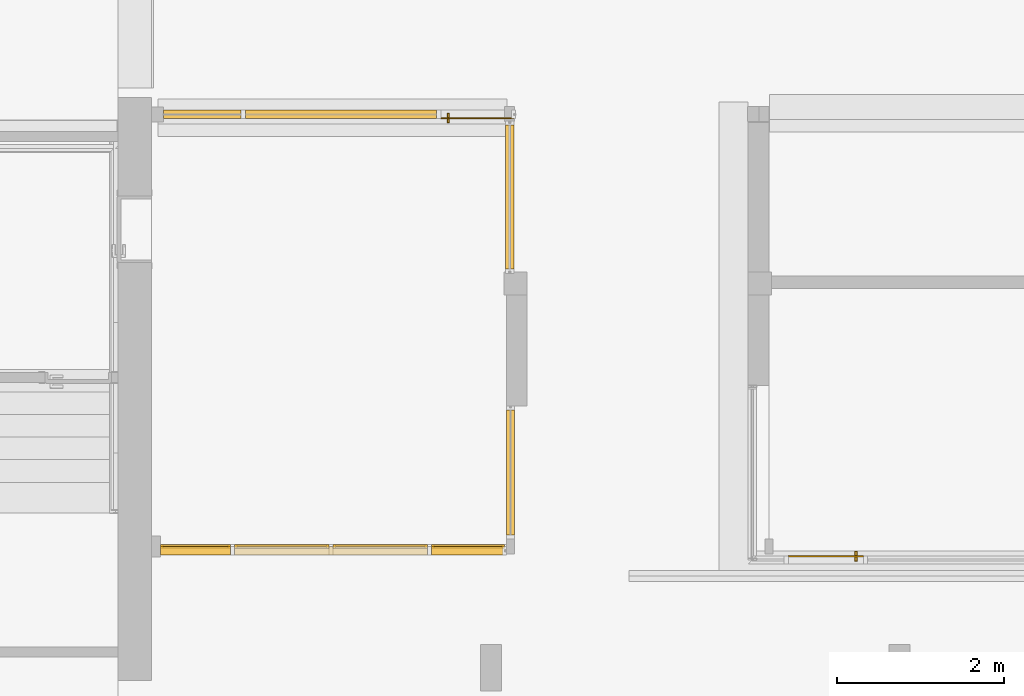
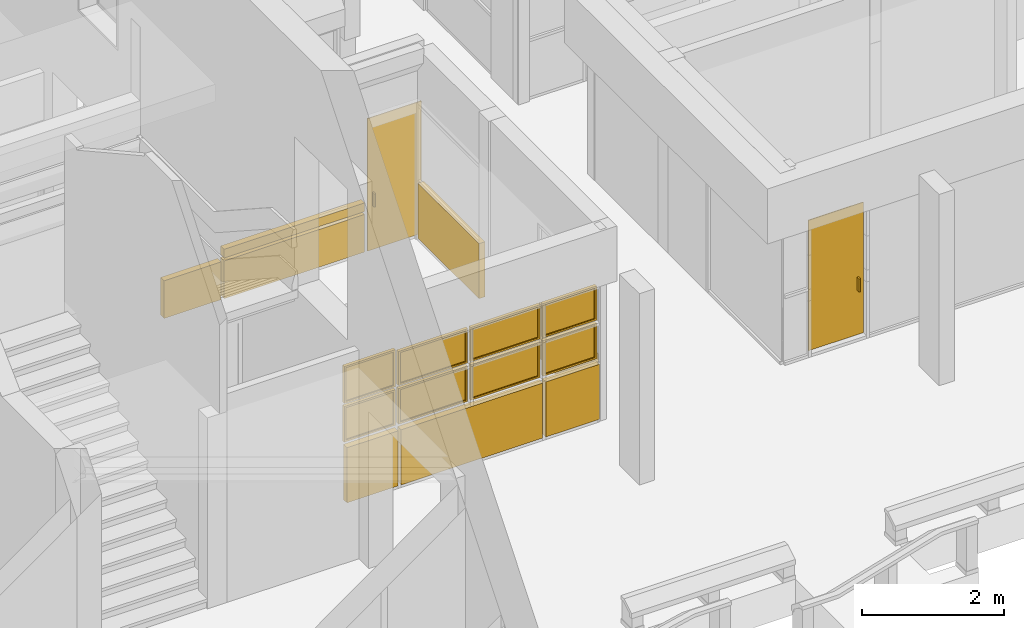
# One storey, part 103 of 117: 8 curtain walls, 8 windows, 2 doors, 5 elements without a shape of their own.
"""IFC4 building model written with IfcOpenShell, lengths in metres."""

from ifc_helpers import new_model, entity, si_unit, converted_unit, derived_unit, direction, frame, origin, place, context, subcontext, project, spatial, indexed_curve, outline, extrude, source, transform, mapped, material, constituent, constituent_set, type_object, type_shapes, element, aggregate, save


model = new_model("IFC4")

# Units and contexts
model_context = context("Model", 3, precision=1e-05, world=origin(), true_north=direction((6.123031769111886e-17, 1.0)))
body_context = subcontext(model_context, "Body", "Model", "MODEL_VIEW")
ifc_project = project(units=[si_unit("LENGTHUNIT", "METRE"), si_unit("AREAUNIT", "SQUARE_METRE"), si_unit("VOLUMEUNIT", "CUBIC_METRE"), converted_unit("PLANEANGLEUNIT", "DEGREE", entity("IfcRatioMeasure", 0.017453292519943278), si_unit("PLANEANGLEUNIT", "RADIAN"), dimensions=[0, 0, 0, 0, 0, 0, 0]), si_unit("MASSUNIT", "GRAM", prefix="KILO"), derived_unit("MASSDENSITYUNIT", [(si_unit("MASSUNIT", "GRAM", prefix="KILO"), 1), (si_unit("LENGTHUNIT", "METRE"), -3)]), derived_unit("MOMENTOFINERTIAUNIT", [(si_unit("LENGTHUNIT", "METRE"), 4)]), si_unit("TIMEUNIT", "SECOND"), si_unit("FREQUENCYUNIT", "HERTZ"), si_unit("THERMODYNAMICTEMPERATUREUNIT", "DEGREE_CELSIUS"), derived_unit("THERMALTRANSMITTANCEUNIT", [(si_unit("MASSUNIT", "GRAM", prefix="KILO"), 1), (si_unit("THERMODYNAMICTEMPERATUREUNIT", "KELVIN"), -1), (si_unit("TIMEUNIT", "SECOND"), -3)]), derived_unit("VOLUMETRICFLOWRATEUNIT", [(si_unit("LENGTHUNIT", "METRE"), 3), (si_unit("TIMEUNIT", "SECOND"), -1)]), derived_unit("MASSFLOWRATEUNIT", [(si_unit("MASSUNIT", "GRAM", prefix="KILO"), 1), (si_unit("TIMEUNIT", "SECOND"), -1)]), derived_unit("ROTATIONALFREQUENCYUNIT", [(si_unit("TIMEUNIT", "SECOND"), -1)]), si_unit("ELECTRICCURRENTUNIT", "AMPERE"), si_unit("ELECTRICVOLTAGEUNIT", "VOLT"), si_unit("POWERUNIT", "WATT"), si_unit("FORCEUNIT", "NEWTON", prefix="KILO"), si_unit("ILLUMINANCEUNIT", "LUX"), si_unit("LUMINOUSFLUXUNIT", "LUMEN"), si_unit("LUMINOUSINTENSITYUNIT", "CANDELA"), derived_unit("USERDEFINED", [(si_unit("MASSUNIT", "GRAM", prefix="KILO"), -1), (si_unit("LENGTHUNIT", "METRE"), -2), (si_unit("TIMEUNIT", "SECOND"), 3), (si_unit("LUMINOUSFLUXUNIT", "LUMEN"), 1)]), derived_unit("SOUNDPOWERUNIT", [(si_unit("MASSUNIT", "GRAM", prefix="KILO"), 1), (si_unit("LENGTHUNIT", "METRE"), 2), (si_unit("TIMEUNIT", "SECOND"), -3)]), derived_unit("SOUNDPRESSUREUNIT", [(si_unit("MASSUNIT", "GRAM", prefix="KILO"), 1), (si_unit("LENGTHUNIT", "METRE"), -1), (si_unit("TIMEUNIT", "SECOND"), -2)]), derived_unit("LINEARVELOCITYUNIT", [(si_unit("LENGTHUNIT", "METRE"), 1), (si_unit("TIMEUNIT", "SECOND"), -1)]), si_unit("PRESSUREUNIT", "PASCAL"), derived_unit("USERDEFINED", [(si_unit("LENGTHUNIT", "METRE"), -2), (si_unit("MASSUNIT", "GRAM", prefix="KILO"), 1), (si_unit("TIMEUNIT", "SECOND"), -2)]), derived_unit("LINEARFORCEUNIT", [(si_unit("MASSUNIT", "GRAM", prefix="KILO"), 1), (si_unit("LENGTHUNIT", "METRE"), 1), (si_unit("TIMEUNIT", "SECOND"), -2), (si_unit("LENGTHUNIT", "METRE"), -1)]), derived_unit("PLANARFORCEUNIT", [(si_unit("MASSUNIT", "GRAM", prefix="KILO"), 1), (si_unit("LENGTHUNIT", "METRE"), 1), (si_unit("TIMEUNIT", "SECOND"), -2), (si_unit("LENGTHUNIT", "METRE"), -2)])], contexts=[model_context])

# Site, building, storey
site_placement = place(None, origin())
site = spatial("IfcSite", under=ifc_project, at=site_placement, Name="Superficie", CompositionType="ELEMENT")
building_placement = place(site_placement, origin())
building = spatial("IfcBuilding", under=site, at=building_placement, CompositionType="ELEMENT")
storey_placement = place(building_placement, origin())
storey = spatial("IfcBuildingStorey", under=building, at=storey_placement, Name="Nivel 0", CompositionType="ELEMENT", Elevation=0.0)

# Curtain walls
curtain_wall_type_1 = type_object("IfcCurtainWallType", Name="Muro cortina:Muro cortina - simple", PredefinedType="NOTDEFINED")
curtain_wall_1_placement = place(storey_placement, origin())
curtain_wall_1 = element("IfcCurtainWall", 1, at=curtain_wall_1_placement, inside=storey, type_object=curtain_wall_type_1, Name="Muro cortina:Muro cortina - simple", ObjectType="Muro cortina:Muro cortina - simple", PredefinedType="NOTDEFINED")
ifc_material_1 = material(Name="<Unnamed>")
curtain_wall_type_2 = type_object("IfcCurtainWallType", Name="Muro básico:Por defecto - 10 cm", PredefinedType="NOTDEFINED")
curtain_wall_2_placement = place(storey_placement, frame((-18.41320098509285, -1.65417071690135, 0.04500000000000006), z_axis=(0.0, 0.0, 1.0), x_axis=(-1.0, 0.0, 0.0)))
curtain_wall_2 = element("IfcCurtainWall", 2, at=curtain_wall_2_placement, type_object=curtain_wall_type_2, material=ifc_material_1, Name="Muro básico:Por defecto - 10 cm", ObjectType="Muro básico:Por defecto - 10 cm", PredefinedType="NOTDEFINED", context=body_context, shape_type="SweptSolid", body=[
    extrude(outline(indexed_curve([(0.874999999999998, 0.04999999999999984), (-1.6114094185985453e-16, 0.05), (1.6114094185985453e-16, -0.05), (0.8749999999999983, -0.05000000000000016), (0.874999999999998, 0.04999999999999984)], self_intersect=False)), origin(), (0.0, 0.0, 1.0), 0.9500000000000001),
])
curtain_wall_3_placement = place(storey_placement, frame((-19.33820098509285, -1.6541707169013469, 0.04500000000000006), z_axis=(0.0, 0.0, 1.0), x_axis=(-1.0, 0.0, 0.0)))
curtain_wall_3 = element("IfcCurtainWall", 3, at=curtain_wall_3_placement, type_object=curtain_wall_type_2, material=ifc_material_1, Name="Muro básico:Por defecto - 10 cm", ObjectType="Muro básico:Por defecto - 10 cm", PredefinedType="NOTDEFINED", context=body_context, shape_type="SweptSolid", body=[
    extrude(outline(indexed_curve([(2.310000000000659, 0.04999999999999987), (-1.6114094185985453e-16, 0.05), (1.6114094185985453e-16, -0.05), (2.31000000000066, -0.05000000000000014), (2.310000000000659, 0.04999999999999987)], self_intersect=False)), origin(), (0.0, 0.0, 1.0), 0.9500000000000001),
])
curtain_wall_4_placement = place(storey_placement, frame((-21.698200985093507, -1.6541707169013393, 0.04500000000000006), z_axis=(0.0, 0.0, 1.0), x_axis=(-1.0, 0.0, 0.0)))
curtain_wall_4 = element("IfcCurtainWall", 4, at=curtain_wall_4_placement, type_object=curtain_wall_type_2, material=ifc_material_1, Name="Muro básico:Por defecto - 10 cm", ObjectType="Muro básico:Por defecto - 10 cm", PredefinedType="NOTDEFINED", context=body_context, shape_type="SweptSolid", body=[
    extrude(outline(indexed_curve([(0.8344348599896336, 0.04999999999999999), (-1.6114094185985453e-16, 0.05), (1.6114094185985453e-16, -0.05), (0.834434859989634, -0.050000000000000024), (0.8344348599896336, 0.04999999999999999)], self_intersect=False)), origin(), (0.0, 0.0, 1.0), 0.9500000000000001),
])

curtain_wall_5_placement = place(storey_placement, origin())
curtain_wall_5 = element("IfcCurtainWall", 5, at=curtain_wall_5_placement, inside=storey, type_object=curtain_wall_type_1, Name="Muro cortina:Muro cortina - simple", ObjectType="Muro cortina:Muro cortina - simple", PredefinedType="NOTDEFINED")
curtain_wall_6_placement = place(storey_placement, frame((-18.343200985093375, -1.4641707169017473, 0.04500000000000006), z_axis=(0.0, 0.0, 1.0), x_axis=(0.0, 1.0, 0.0)))
curtain_wall_6 = element("IfcCurtainWall", 6, at=curtain_wall_6_placement, type_object=curtain_wall_type_2, material=ifc_material_1, Name="Muro básico:Por defecto - 10 cm", ObjectType="Muro básico:Por defecto - 10 cm", PredefinedType="NOTDEFINED", context=body_context, shape_type="SweptSolid", body=[
    extrude(outline(indexed_curve([(1.4962827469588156, 0.04999999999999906), (-5.879933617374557e-17, 0.04999999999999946), (5.879933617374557e-17, -0.04999999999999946), (1.4962827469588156, -0.04999999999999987), (1.4962827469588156, 0.04999999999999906)], self_intersect=False)), origin(), (0.0, 0.0, 1.0), 0.9500000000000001),
])
aggregate(curtain_wall_5, [curtain_wall_6])

curtain_wall_7_placement = place(storey_placement, origin())
curtain_wall_7 = element("IfcCurtainWall", 7, at=curtain_wall_7_placement, inside=storey, type_object=curtain_wall_type_1, Name="Muro cortina:Muro cortina - simple", ObjectType="Muro cortina:Muro cortina - simple", PredefinedType="NOTDEFINED")
curtain_wall_8_placement = place(storey_placement, frame((-18.3532009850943, 3.440829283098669, 0.04500000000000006), z_axis=(0.0, 0.0, 1.0), x_axis=(0.0, -1.0, 0.0)))
curtain_wall_8 = element("IfcCurtainWall", 8, at=curtain_wall_8_placement, type_object=curtain_wall_type_2, material=ifc_material_1, Name="Muro básico:Por defecto - 10 cm", ObjectType="Muro básico:Por defecto - 10 cm", PredefinedType="NOTDEFINED", context=body_context, shape_type="SweptSolid", body=[
    extrude(outline(indexed_curve([(1.7229835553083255, 0.04999999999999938), (-6.035388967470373e-17, 0.04999999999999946), (6.035388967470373e-17, -0.04999999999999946), (1.7229835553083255, -0.049999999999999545), (1.7229835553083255, 0.04999999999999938)], self_intersect=False)), origin(), (0.0, 0.0, 1.0), 0.95),
])
aggregate(curtain_wall_7, [curtain_wall_8])

curtain_wall_9_placement = place(storey_placement, origin())
curtain_wall_9 = element("IfcCurtainWall", 9, at=curtain_wall_9_placement, inside=storey, type_object=curtain_wall_type_1, Name="Muro cortina:Muro cortina - simple", ObjectType="Muro cortina:Muro cortina - simple", PredefinedType="NOTDEFINED")
curtain_wall_10_placement = place(storey_placement, frame((-19.228200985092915, 3.570829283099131, 0.04500000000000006), z_axis=(0.0, 0.0, 1.0), x_axis=(-1.0, 0.0, 0.0)))
curtain_wall_10 = element("IfcCurtainWall", 10, at=curtain_wall_10_placement, type_object=curtain_wall_type_2, material=ifc_material_1, Name="Muro básico:Por defecto - 10 cm", ObjectType="Muro básico:Por defecto - 10 cm", PredefinedType="NOTDEFINED", context=body_context, shape_type="SweptSolid", body=[
    extrude(outline(indexed_curve([(2.2899999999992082, 0.050000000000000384), (-1.6191195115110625e-16, 0.05), (1.6191195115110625e-16, -0.05), (2.289999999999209, -0.04999999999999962), (2.2899999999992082, 0.050000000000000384)], self_intersect=False)), origin(), (0.0, 0.0, 1.0), 0.6499999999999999),
])
curtain_wall_11_placement = place(storey_placement, frame((-21.56820098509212, 3.5708292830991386, 0.04500000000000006), z_axis=(0.0, 0.0, 1.0), x_axis=(-1.0, 0.0, 0.0)))
curtain_wall_11 = element("IfcCurtainWall", 11, at=curtain_wall_11_placement, type_object=curtain_wall_type_2, material=ifc_material_1, Name="Muro básico:Por defecto - 10 cm", ObjectType="Muro básico:Por defecto - 10 cm", PredefinedType="NOTDEFINED", context=body_context, shape_type="SweptSolid", body=[
    extrude(outline(indexed_curve([(0.9302918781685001, 0.05000000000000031), (-1.6191195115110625e-16, 0.05), (1.6191195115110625e-16, -0.05), (0.9302918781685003, -0.0499999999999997), (0.9302918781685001, 0.05000000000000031)], self_intersect=False)), origin(), (0.0, 0.0, 1.0), 0.6499999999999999),
])
curtain_wall_12_placement = place(storey_placement, frame((-19.228200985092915, 3.570829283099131, 0.7449999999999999), z_axis=(0.0, 0.0, 1.0), x_axis=(-1.0, 0.0, 0.0)))
curtain_wall_12 = element("IfcCurtainWall", 12, at=curtain_wall_12_placement, type_object=curtain_wall_type_2, material=ifc_material_1, Name="Muro básico:Por defecto - 10 cm", ObjectType="Muro básico:Por defecto - 10 cm", PredefinedType="NOTDEFINED", context=body_context, shape_type="SweptSolid", body=[
    extrude(outline(indexed_curve([(2.2899999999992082, 0.050000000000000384), (-1.6191195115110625e-16, 0.05), (1.6191195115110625e-16, -0.05), (2.289999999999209, -0.04999999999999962), (2.2899999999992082, 0.050000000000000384)], self_intersect=False)), origin(), (0.0, 0.0, 1.0), 0.15000000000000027),
])

# Window
ifc_material_2 = material(Name="Vidrio", Category="Vidrio")
ifc_constituent_1 = constituent(ifc_material_2, Name="Vidrio", Category="Vidrio")
ifc_material_3 = material(Name="Metal - Aluminio", Category="Metal")
ifc_constituent_2 = constituent(ifc_material_3, Name="Metal - Aluminio", Category="Metal")
ifc_constituent_set_1 = constituent_set(constituents=[ifc_constituent_1, ifc_constituent_2], Name="MaterialConstituentSet")
ifc_constituent_3 = constituent(ifc_material_2, Name="Cristal", Category="Vidrio")
ifc_constituent_4 = constituent(ifc_material_3, Name="Marco/montante", Category="Metal")
ifc_constituent_set_2 = constituent_set(constituents=[ifc_constituent_3, ifc_constituent_4], Name="MaterialConstituentSet")
window_type_1 = type_object("IfcWindowType", Name="Ventana de muro cortina con proyectable simple:Ventana de muro cortina con proyectable simple", PartitioningType="NOTDEFINED", PredefinedType="WINDOW", material=ifc_constituent_set_2)
shared_shape_1 = source(origin(), body_context, "Body", "SweptSolid", [
    extrude(outline(indexed_curve([(-0.4075000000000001, -0.006350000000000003), (0.4075000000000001, -0.006350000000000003), (0.4075000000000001, 0.0063499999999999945), (-0.4075000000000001, 0.0063499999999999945), (-0.4075000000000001, -0.006350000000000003)], self_intersect=False)), frame((0.0, 0.05039999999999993, 0.030000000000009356)), (0.0, 0.0, 1.0), 0.5549999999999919),
    extrude(outline(indexed_curve([(-0.43749999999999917, -0.30750000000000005), (0.43749999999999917, -0.30750000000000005), (0.43749999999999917, 0.30750000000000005), (-0.43749999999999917, 0.30750000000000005), (-0.43749999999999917, -0.30750000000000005)], self_intersect=False), holes=[indexed_curve([(-0.4075000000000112, -0.2775000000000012), (-0.40750000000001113, 0.27749999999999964), (0.4075000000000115, 0.27749999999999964), (0.40750000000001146, -0.2775000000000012), (-0.4075000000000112, -0.2775000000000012)], self_intersect=False)]), frame((0.0, 0.07499999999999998, 0.30750000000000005), z_axis=(0.0, -1.0, 0.0), x_axis=(-1.0, 0.0, 0.0)), (0.0, 0.0, 1.0), 0.05000000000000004),
])
type_shapes(window_type_1, [shared_shape_1])
window_1_placement = place(curtain_wall_1_placement, frame((-18.85070098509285, -1.6541707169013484, 1.0450000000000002)))
window_1 = element("IfcWindow", 13, at=window_1_placement, type_object=window_type_1, material=ifc_constituent_set_1, Name="Ventana de muro cortina con proyectable simple:Ventana de muro cortina con proyectable simple", ObjectType="Ventana de muro cortina con proyectable simple:Ventana de muro cortina con proyectable simple", OverallHeight=0.6150000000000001, OverallWidth=0.8749999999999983, PartitioningType="NOTDEFINED", PredefinedType="WINDOW", context=body_context, shape_type="MappedRepresentation", body=[
    mapped(shared_shape_1, transform((0.0, 0.0, 0.0), scale=1.0)),
])

ifc_constituent_5 = constituent(ifc_material_2, Name="Vidrio", Category="Vidrio")
ifc_constituent_6 = constituent(ifc_material_3, Name="Metal - Aluminio", Category="Metal")
ifc_constituent_set_3 = constituent_set(constituents=[ifc_constituent_5, ifc_constituent_6], Name="MaterialConstituentSet")
ifc_constituent_7 = constituent(ifc_material_2, Name="Cristal", Category="Vidrio")
ifc_constituent_8 = constituent(ifc_material_3, Name="Marco/montante", Category="Metal")
ifc_constituent_set_4 = constituent_set(constituents=[ifc_constituent_7, ifc_constituent_8], Name="MaterialConstituentSet")
window_type_2 = type_object("IfcWindowType", Name="Ventana de muro cortina con proyectable simple:Ventana de muro cortina con proyectable simple", PartitioningType="NOTDEFINED", PredefinedType="WINDOW", material=ifc_constituent_set_4)
shared_shape_2 = source(origin(), body_context, "Body", "SweptSolid", [
    extrude(outline(indexed_curve([(-0.5350000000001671, -0.006350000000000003), (0.5350000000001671, -0.006350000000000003), (0.5350000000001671, 0.0063499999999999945), (-0.5350000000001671, 0.0063499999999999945), (-0.5350000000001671, -0.006350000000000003)], self_intersect=False)), frame((0.0, 0.05039999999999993, 0.030000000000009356)), (0.0, 0.0, 1.0), 0.5549999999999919),
    extrude(outline(indexed_curve([(-0.5650000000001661, -0.30750000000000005), (0.5650000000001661, -0.30750000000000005), (0.5650000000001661, 0.30750000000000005), (-0.5650000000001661, 0.30750000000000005), (-0.5650000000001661, -0.30750000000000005)], self_intersect=False), holes=[indexed_curve([(-0.5350000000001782, -0.2775000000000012), (-0.5350000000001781, 0.27749999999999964), (0.5350000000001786, 0.27749999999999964), (0.5350000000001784, -0.2775000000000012), (-0.5350000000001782, -0.2775000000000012)], self_intersect=False)]), frame((0.0, 0.07499999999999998, 0.30750000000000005), z_axis=(0.0, -1.0, 0.0), x_axis=(-1.0, 0.0, 0.0)), (0.0, 0.0, 1.0), 0.05000000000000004),
])
type_shapes(window_type_2, [shared_shape_2])
window_2_placement = place(curtain_wall_1_placement, frame((-19.903200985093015, -1.654170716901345, 1.0450000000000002)))
window_2 = element("IfcWindow", 14, at=window_2_placement, type_object=window_type_2, material=ifc_constituent_set_3, Name="Ventana de muro cortina con proyectable simple:Ventana de muro cortina con proyectable simple", ObjectType="Ventana de muro cortina con proyectable simple:Ventana de muro cortina con proyectable simple", OverallHeight=0.6150000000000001, OverallWidth=1.1300000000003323, PartitioningType="NOTDEFINED", PredefinedType="WINDOW", context=body_context, shape_type="MappedRepresentation", body=[
    mapped(shared_shape_2, transform((0.0, 0.0, 0.0), scale=1.0)),
])

ifc_constituent_9 = constituent(ifc_material_2, Name="Vidrio", Category="Vidrio")
ifc_constituent_10 = constituent(ifc_material_3, Name="Metal - Aluminio", Category="Metal")
ifc_constituent_set_5 = constituent_set(constituents=[ifc_constituent_9, ifc_constituent_10], Name="MaterialConstituentSet")
window_3_placement = place(curtain_wall_1_placement, frame((-21.08320098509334, -1.6541707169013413, 1.0450000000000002)))
window_3 = element("IfcWindow", 15, at=window_3_placement, type_object=window_type_2, material=ifc_constituent_set_5, Name="Ventana de muro cortina con proyectable simple:Ventana de muro cortina con proyectable simple", ObjectType="Ventana de muro cortina con proyectable simple:Ventana de muro cortina con proyectable simple", OverallHeight=0.6150000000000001, OverallWidth=1.1300000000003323, PartitioningType="NOTDEFINED", PredefinedType="WINDOW", context=body_context, shape_type="MappedRepresentation", body=[
    mapped(shared_shape_2, transform((0.0, 0.0, 0.0), scale=1.0)),
])

ifc_constituent_11 = constituent(ifc_material_2, Name="Vidrio", Category="Vidrio")
ifc_constituent_12 = constituent(ifc_material_3, Name="Metal - Aluminio", Category="Metal")
ifc_constituent_set_6 = constituent_set(constituents=[ifc_constituent_11, ifc_constituent_12], Name="MaterialConstituentSet")
ifc_constituent_13 = constituent(ifc_material_2, Name="Cristal", Category="Vidrio")
ifc_constituent_14 = constituent(ifc_material_3, Name="Marco/montante", Category="Metal")
ifc_constituent_set_7 = constituent_set(constituents=[ifc_constituent_13, ifc_constituent_14], Name="MaterialConstituentSet")
window_type_3 = type_object("IfcWindowType", Name="Ventana de muro cortina con proyectable simple:Ventana de muro cortina con proyectable simple", PartitioningType="NOTDEFINED", PredefinedType="WINDOW", material=ifc_constituent_set_7)
shared_shape_3 = source(origin(), body_context, "Body", "SweptSolid", [
    extrude(outline(indexed_curve([(-0.3872174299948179, -0.006350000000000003), (0.3872174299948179, -0.006350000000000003), (0.3872174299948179, 0.0063499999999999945), (-0.3872174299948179, 0.0063499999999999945), (-0.3872174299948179, -0.006350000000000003)], self_intersect=False)), frame((0.0, 0.05039999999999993, 0.030000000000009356)), (0.0, 0.0, 1.0), 0.5549999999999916),
    extrude(outline(indexed_curve([(-0.417217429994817, -0.30749999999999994), (0.417217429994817, -0.30749999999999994), (0.417217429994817, 0.30749999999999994), (-0.417217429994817, 0.30749999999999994), (-0.417217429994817, -0.30749999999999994)], self_intersect=False), holes=[indexed_curve([(-0.387217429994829, -0.2775000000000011), (-0.38721742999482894, 0.2774999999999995), (0.38721742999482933, 0.2774999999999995), (0.3872174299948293, -0.2775000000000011), (-0.387217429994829, -0.2775000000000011)], self_intersect=False)]), frame((0.0, 0.07499999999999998, 0.30749999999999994), z_axis=(0.0, -1.0, 0.0), x_axis=(-1.0, 0.0, 0.0)), (0.0, 0.0, 1.0), 0.05000000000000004),
])
type_shapes(window_type_3, [shared_shape_3])
window_4_placement = place(curtain_wall_1_placement, frame((-22.11541841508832, -1.654170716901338, 1.045)))
window_4 = element("IfcWindow", 16, at=window_4_placement, type_object=window_type_3, material=ifc_constituent_set_6, Name="Ventana de muro cortina con proyectable simple:Ventana de muro cortina con proyectable simple", ObjectType="Ventana de muro cortina con proyectable simple:Ventana de muro cortina con proyectable simple", OverallHeight=0.6149999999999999, OverallWidth=0.834434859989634, PartitioningType="NOTDEFINED", PredefinedType="WINDOW", context=body_context, shape_type="MappedRepresentation", body=[
    mapped(shared_shape_3, transform((0.0, 0.0, 0.0), scale=1.0)),
])

ifc_constituent_15 = constituent(ifc_material_2, Name="Vidrio", Category="Vidrio")
ifc_constituent_16 = constituent(ifc_material_3, Name="Metal - Aluminio", Category="Metal")
ifc_constituent_set_8 = constituent_set(constituents=[ifc_constituent_15, ifc_constituent_16], Name="MaterialConstituentSet")
ifc_constituent_17 = constituent(ifc_material_2, Name="Cristal", Category="Vidrio")
ifc_constituent_18 = constituent(ifc_material_3, Name="Marco/montante", Category="Metal")
ifc_constituent_set_9 = constituent_set(constituents=[ifc_constituent_17, ifc_constituent_18], Name="MaterialConstituentSet")
window_type_4 = type_object("IfcWindowType", Name="Ventana de muro cortina con proyectable simple:Ventana de muro cortina con proyectable simple", PartitioningType="NOTDEFINED", PredefinedType="WINDOW", material=ifc_constituent_set_9)
shared_shape_4 = source(origin(), body_context, "Body", "SweptSolid", [
    extrude(outline(indexed_curve([(-0.4075000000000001, -0.006350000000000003), (0.4075000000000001, -0.006350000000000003), (0.4075000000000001, 0.0063499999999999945), (-0.4075000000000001, 0.0063499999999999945), (-0.4075000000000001, -0.006350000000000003)], self_intersect=False)), frame((0.0, 0.05039999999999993, 0.030000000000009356)), (0.0, 0.0, 1.0), 0.5299999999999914),
    extrude(outline(indexed_curve([(-0.43749999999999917, -0.2949999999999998), (0.43749999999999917, -0.2949999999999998), (0.43749999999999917, 0.2949999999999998), (-0.43749999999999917, 0.2949999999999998), (-0.43749999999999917, -0.2949999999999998)], self_intersect=False), holes=[indexed_curve([(-0.4075000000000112, -0.26500000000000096), (-0.40750000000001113, 0.2649999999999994), (0.4075000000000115, 0.2649999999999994), (0.40750000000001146, -0.26500000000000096), (-0.4075000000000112, -0.26500000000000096)], self_intersect=False)]), frame((0.0, 0.07499999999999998, 0.2949999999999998), z_axis=(0.0, -1.0, 0.0), x_axis=(-1.0, 0.0, 0.0)), (0.0, 0.0, 1.0), 0.05000000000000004),
])
type_shapes(window_type_4, [shared_shape_4])
window_5_placement = place(curtain_wall_1_placement, frame((-18.85070098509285, -1.6541707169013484, 1.71)))
window_5 = element("IfcWindow", 17, at=window_5_placement, type_object=window_type_4, material=ifc_constituent_set_8, Name="Ventana de muro cortina con proyectable simple:Ventana de muro cortina con proyectable simple", ObjectType="Ventana de muro cortina con proyectable simple:Ventana de muro cortina con proyectable simple", OverallHeight=0.5899999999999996, OverallWidth=0.8749999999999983, PartitioningType="NOTDEFINED", PredefinedType="WINDOW", context=body_context, shape_type="MappedRepresentation", body=[
    mapped(shared_shape_4, transform((0.0, 0.0, 0.0), scale=1.0)),
])

ifc_constituent_19 = constituent(ifc_material_2, Name="Vidrio", Category="Vidrio")
ifc_constituent_20 = constituent(ifc_material_3, Name="Metal - Aluminio", Category="Metal")
ifc_constituent_set_10 = constituent_set(constituents=[ifc_constituent_19, ifc_constituent_20], Name="MaterialConstituentSet")
ifc_constituent_21 = constituent(ifc_material_2, Name="Cristal", Category="Vidrio")
ifc_constituent_22 = constituent(ifc_material_3, Name="Marco/montante", Category="Metal")
ifc_constituent_set_11 = constituent_set(constituents=[ifc_constituent_21, ifc_constituent_22], Name="MaterialConstituentSet")
window_type_5 = type_object("IfcWindowType", Name="Ventana de muro cortina con proyectable simple:Ventana de muro cortina con proyectable simple", PartitioningType="NOTDEFINED", PredefinedType="WINDOW", material=ifc_constituent_set_11)
shared_shape_5 = source(origin(), body_context, "Body", "SweptSolid", [
    extrude(outline(indexed_curve([(-0.5350000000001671, -0.006350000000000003), (0.5350000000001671, -0.006350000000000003), (0.5350000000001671, 0.0063499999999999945), (-0.5350000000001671, 0.0063499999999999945), (-0.5350000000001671, -0.006350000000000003)], self_intersect=False)), frame((0.0, 0.05039999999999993, 0.030000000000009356)), (0.0, 0.0, 1.0), 0.5299999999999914),
    extrude(outline(indexed_curve([(-0.5650000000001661, -0.2949999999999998), (0.5650000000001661, -0.2949999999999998), (0.5650000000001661, 0.2949999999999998), (-0.5650000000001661, 0.2949999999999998), (-0.5650000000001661, -0.2949999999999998)], self_intersect=False), holes=[indexed_curve([(-0.5350000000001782, -0.26500000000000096), (-0.5350000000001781, 0.2649999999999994), (0.5350000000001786, 0.2649999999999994), (0.5350000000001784, -0.26500000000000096), (-0.5350000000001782, -0.26500000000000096)], self_intersect=False)]), frame((0.0, 0.07499999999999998, 0.2949999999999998), z_axis=(0.0, -1.0, 0.0), x_axis=(-1.0, 0.0, 0.0)), (0.0, 0.0, 1.0), 0.05000000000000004),
])
type_shapes(window_type_5, [shared_shape_5])
window_6_placement = place(curtain_wall_1_placement, frame((-19.903200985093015, -1.654170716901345, 1.71)))
window_6 = element("IfcWindow", 18, at=window_6_placement, type_object=window_type_5, material=ifc_constituent_set_10, Name="Ventana de muro cortina con proyectable simple:Ventana de muro cortina con proyectable simple", ObjectType="Ventana de muro cortina con proyectable simple:Ventana de muro cortina con proyectable simple", OverallHeight=0.5899999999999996, OverallWidth=1.1300000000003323, PartitioningType="NOTDEFINED", PredefinedType="WINDOW", context=body_context, shape_type="MappedRepresentation", body=[
    mapped(shared_shape_5, transform((0.0, 0.0, 0.0), scale=1.0)),
])

ifc_constituent_23 = constituent(ifc_material_2, Name="Vidrio", Category="Vidrio")
ifc_constituent_24 = constituent(ifc_material_3, Name="Metal - Aluminio", Category="Metal")
ifc_constituent_set_12 = constituent_set(constituents=[ifc_constituent_23, ifc_constituent_24], Name="MaterialConstituentSet")
window_7_placement = place(curtain_wall_1_placement, frame((-21.08320098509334, -1.6541707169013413, 1.71)))
window_7 = element("IfcWindow", 19, at=window_7_placement, type_object=window_type_5, material=ifc_constituent_set_12, Name="Ventana de muro cortina con proyectable simple:Ventana de muro cortina con proyectable simple", ObjectType="Ventana de muro cortina con proyectable simple:Ventana de muro cortina con proyectable simple", OverallHeight=0.5899999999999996, OverallWidth=1.1300000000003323, PartitioningType="NOTDEFINED", PredefinedType="WINDOW", context=body_context, shape_type="MappedRepresentation", body=[
    mapped(shared_shape_5, transform((0.0, 0.0, 0.0), scale=1.0)),
])

ifc_constituent_25 = constituent(ifc_material_2, Name="Vidrio", Category="Vidrio")
ifc_constituent_26 = constituent(ifc_material_3, Name="Metal - Aluminio", Category="Metal")
ifc_constituent_set_13 = constituent_set(constituents=[ifc_constituent_25, ifc_constituent_26], Name="MaterialConstituentSet")
ifc_constituent_27 = constituent(ifc_material_2, Name="Cristal", Category="Vidrio")
ifc_constituent_28 = constituent(ifc_material_3, Name="Marco/montante", Category="Metal")
ifc_constituent_set_14 = constituent_set(constituents=[ifc_constituent_27, ifc_constituent_28], Name="MaterialConstituentSet")
window_type_6 = type_object("IfcWindowType", Name="Ventana de muro cortina con proyectable simple:Ventana de muro cortina con proyectable simple", PartitioningType="NOTDEFINED", PredefinedType="WINDOW", material=ifc_constituent_set_14)
shared_shape_6 = source(origin(), body_context, "Body", "SweptSolid", [
    extrude(outline(indexed_curve([(-0.3872174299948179, -0.006350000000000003), (0.3872174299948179, -0.006350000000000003), (0.3872174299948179, 0.0063499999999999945), (-0.3872174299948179, 0.0063499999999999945), (-0.3872174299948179, -0.006350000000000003)], self_intersect=False)), frame((0.0, 0.05039999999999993, 0.030000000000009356)), (0.0, 0.0, 1.0), 0.5799999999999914),
    extrude(outline(indexed_curve([(-0.417217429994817, -0.3199999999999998), (0.417217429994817, -0.3199999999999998), (0.417217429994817, 0.3199999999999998), (-0.417217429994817, 0.3199999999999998), (-0.417217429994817, -0.3199999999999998)], self_intersect=False), holes=[indexed_curve([(-0.387217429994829, -0.2900000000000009), (-0.38721742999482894, 0.2899999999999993), (0.38721742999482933, 0.2899999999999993), (0.3872174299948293, -0.2900000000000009), (-0.387217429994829, -0.2900000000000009)], self_intersect=False)]), frame((0.0, 0.07499999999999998, 0.3199999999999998), z_axis=(0.0, -1.0, 0.0), x_axis=(-1.0, 0.0, 0.0)), (0.0, 0.0, 1.0), 0.05000000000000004),
])
type_shapes(window_type_6, [shared_shape_6])
window_8_placement = place(curtain_wall_1_placement, frame((-22.11541841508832, -1.654170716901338, 1.71)))
window_8 = element("IfcWindow", 20, at=window_8_placement, type_object=window_type_6, material=ifc_constituent_set_13, Name="Ventana de muro cortina con proyectable simple:Ventana de muro cortina con proyectable simple", ObjectType="Ventana de muro cortina con proyectable simple:Ventana de muro cortina con proyectable simple", OverallHeight=0.6399999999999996, OverallWidth=0.834434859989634, PartitioningType="NOTDEFINED", PredefinedType="WINDOW", context=body_context, shape_type="MappedRepresentation", body=[
    mapped(shared_shape_6, transform((0.0, 0.0, 0.0), scale=1.0)),
])

aggregate(curtain_wall_1, [curtain_wall_2, curtain_wall_3, curtain_wall_4, window_1, window_2, window_3, window_4, window_5, window_6, window_7, window_8])

# Door
ifc_constituent_29 = constituent(ifc_material_3, Name="Metal - Aluminio", Category="Metal")
ifc_constituent_30 = constituent(ifc_material_2, Name="Vidrio", Category="Vidrio")
ifc_constituent_set_15 = constituent_set(constituents=[ifc_constituent_29, ifc_constituent_30], Name="MaterialConstituentSet")
ifc_constituent_31 = constituent(ifc_material_3, Name="Marco/montante", Category="Metal")
ifc_constituent_32 = constituent(ifc_material_2, Name="Panel", Category="Vidrio")
ifc_constituent_set_16 = constituent_set(constituents=[ifc_constituent_31, ifc_constituent_32], Name="MaterialConstituentSet")
door_type_1 = type_object("IfcDoorType", Name="Puerta de cristal abatible en muro cortina:Puerta de cristal abatible en muro cortina", OperationType="NOTDEFINED", PredefinedType="DOOR", material=ifc_constituent_set_16)
shared_shape_7 = source(origin(), body_context, "Body", "SweptSolid", [
    extrude(outline(indexed_curve([(-0.012700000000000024, -0.0254), (0.012700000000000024, -0.0254), (0.012700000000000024, 0.0254), (-0.012700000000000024, 0.0254), (-0.012700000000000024, -0.0254)], self_intersect=False)), frame((0.3485999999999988, 0.012900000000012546, 0.7619999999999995)), (0.0, 0.0, 1.0), 0.22860000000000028),
    extrude(outline(indexed_curve([(-0.012699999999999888, -0.025399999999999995), (0.01269999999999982, -0.025399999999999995), (0.01269999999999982, 0.025400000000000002), (-0.012699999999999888, 0.025400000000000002), (-0.012699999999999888, -0.025399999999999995)], self_intersect=False)), frame((0.34859999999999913, 0.07640000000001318, 0.762), z_axis=(0.0, 0.0, 1.0), x_axis=(-1.0, 0.0, 0.0)), (0.0, 0.0, 1.0), 0.22860000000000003),
    extrude(outline(indexed_curve([(-0.006350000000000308, -0.4374999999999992), (0.006350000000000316, -0.43749999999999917), (0.006350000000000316, 0.4374999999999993), (-0.006350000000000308, 0.4374999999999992), (-0.006350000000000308, -0.4374999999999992)], self_intersect=False)), frame((0.0, 0.04465000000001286, 0.0), z_axis=(0.0, 0.0, 1.0), x_axis=(0.0, -1.0, 0.0)), (0.0, 0.0, 1.0), 2.2849999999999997),
])
type_shapes(door_type_1, [shared_shape_7])
door_1_placement = place(curtain_wall_9_placement, frame((-18.740700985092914, 3.5708292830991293, 0.04500000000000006), z_axis=(0.0, 0.0, 1.0), x_axis=(-1.0, 0.0, 0.0)))
door_1 = element("IfcDoor", 21, at=door_1_placement, type_object=door_type_1, material=ifc_constituent_set_15, Name="Puerta de cristal abatible en muro cortina:Puerta de cristal abatible en muro cortina", ObjectType="Puerta de cristal abatible en muro cortina:Puerta de cristal abatible en muro cortina", OperationType="NOTDEFINED", OverallHeight=2.2849999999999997, OverallWidth=0.8750000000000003, PredefinedType="DOOR", context=body_context, shape_type="MappedRepresentation", body=[
    mapped(shared_shape_7, transform((0.0, 0.0, 0.0), scale=1.0)),
])

aggregate(curtain_wall_9, [door_1, curtain_wall_10, curtain_wall_11, curtain_wall_12])

# Curtain wall, door
curtain_wall_13_placement = place(storey_placement, origin())
curtain_wall_13 = element("IfcCurtainWall", 22, at=curtain_wall_13_placement, inside=storey, type_object=curtain_wall_type_1, Name="Muro cortina:Muro cortina - simple", ObjectType="Muro cortina:Muro cortina - simple", PredefinedType="NOTDEFINED")
ifc_constituent_33 = constituent(ifc_material_3, Name="Metal - Aluminio", Category="Metal")
ifc_constituent_34 = constituent(ifc_material_2, Name="Vidrio", Category="Vidrio")
ifc_constituent_set_17 = constituent_set(constituents=[ifc_constituent_33, ifc_constituent_34], Name="MaterialConstituentSet")
ifc_constituent_35 = constituent(ifc_material_3, Name="Marco/montante", Category="Metal")
ifc_constituent_36 = constituent(ifc_material_2, Name="Panel", Category="Vidrio")
ifc_constituent_set_18 = constituent_set(constituents=[ifc_constituent_35, ifc_constituent_36], Name="MaterialConstituentSet")
door_type_2 = type_object("IfcDoorType", Name="Puerta de cristal abatible en muro cortina:Puerta de cristal abatible en muro cortina", OperationType="NOTDEFINED", PredefinedType="DOOR", material=ifc_constituent_set_18)
shared_shape_8 = source(origin(), body_context, "Body", "SweptSolid", [
    extrude(outline(indexed_curve([(-0.012700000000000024, -0.0254), (0.012700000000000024, -0.0254), (0.012700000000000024, 0.0254), (-0.012700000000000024, 0.0254), (-0.012700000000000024, -0.0254)], self_intersect=False)), frame((0.3610999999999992, 0.012900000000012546, 0.7619999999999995)), (0.0, 0.0, 1.0), 0.22860000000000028),
    extrude(outline(indexed_curve([(-0.012699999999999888, -0.025399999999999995), (0.01269999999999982, -0.025399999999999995), (0.01269999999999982, 0.025400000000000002), (-0.012699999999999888, 0.025400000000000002), (-0.012699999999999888, -0.025399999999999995)], self_intersect=False)), frame((0.36109999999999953, 0.07640000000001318, 0.762), z_axis=(0.0, 0.0, 1.0), x_axis=(-1.0, 0.0, 0.0)), (0.0, 0.0, 1.0), 0.22860000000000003),
    extrude(outline(indexed_curve([(-0.006350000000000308, -0.4499999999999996), (0.006350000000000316, -0.44999999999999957), (0.006350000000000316, 0.4499999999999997), (-0.006350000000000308, 0.4499999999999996), (-0.006350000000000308, -0.4499999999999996)], self_intersect=False)), frame((0.0, 0.04465000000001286, 0.0), z_axis=(0.0, 0.0, 1.0), x_axis=(0.0, -1.0, 0.0)), (0.0, 0.0, 1.0), 2.25),
])
type_shapes(door_type_2, [shared_shape_8])
door_2_placement = place(curtain_wall_13_placement, frame((-14.568200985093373, -1.7641707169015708, 0.05)))
door_2 = element("IfcDoor", 23, at=door_2_placement, type_object=door_type_2, material=ifc_constituent_set_17, Name="Puerta de cristal abatible en muro cortina:Puerta de cristal abatible en muro cortina", ObjectType="Puerta de cristal abatible en muro cortina:Puerta de cristal abatible en muro cortina", OperationType="NOTDEFINED", OverallHeight=2.25, OverallWidth=0.9000000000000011, PredefinedType="DOOR", context=body_context, shape_type="MappedRepresentation", body=[
    mapped(shared_shape_8, transform((0.0, 0.0, 0.0), scale=1.0)),
])
aggregate(curtain_wall_13, [door_2])

save(model, "model.ifc")
